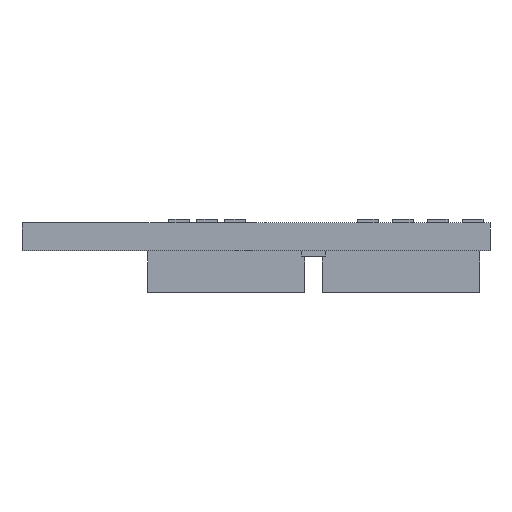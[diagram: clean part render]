
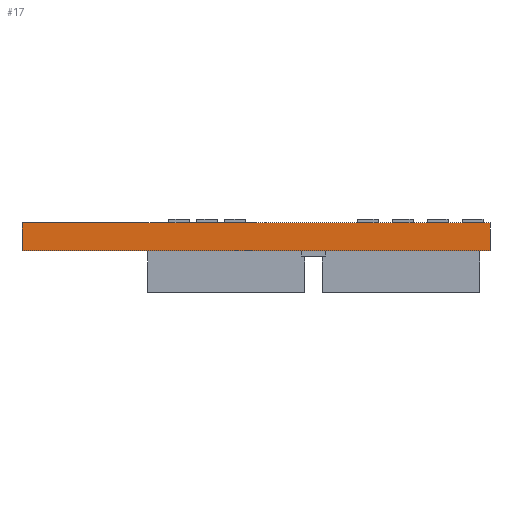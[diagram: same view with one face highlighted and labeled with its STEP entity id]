
A CAD part, left-side view. The second image highlights one B-rep face of the part: STEP entity #17.
In plain terms, the highlighted planar face has unit normal (-1, 0, 0).
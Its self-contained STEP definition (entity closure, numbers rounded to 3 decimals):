
#17 = ADVANCED_FACE('',(#18),#32,.F.);
#18 = FACE_BOUND('',#19,.F.);
#19 = EDGE_LOOP('',(#20,#55,#83,#111));
#20 = ORIENTED_EDGE('',*,*,#21,.F.);
#21 = EDGE_CURVE('',#22,#24,#26,.T.);
#22 = VERTEX_POINT('',#23);
#23 = CARTESIAN_POINT('',(9.2,-6.9,-37.8));
#24 = VERTEX_POINT('',#25);
#25 = CARTESIAN_POINT('',(9.2,-6.9,-37.));
#26 = SURFACE_CURVE('',#27,(#31,#43),.PCURVE_S1.);
#27 = LINE('',#28,#29);
#28 = CARTESIAN_POINT('',(9.2,-6.9,-37.8));
#29 = VECTOR('',#30,1.);
#30 = DIRECTION('',(0.,0.,1.));
#31 = PCURVE('',#32,#37);
#32 = PLANE('',#33);
#33 = AXIS2_PLACEMENT_3D('',#34,#35,#36);
#34 = CARTESIAN_POINT('',(9.2,-6.9,-37.8));
#35 = DIRECTION('',(1.,0.,-0.));
#36 = DIRECTION('',(0.,0.,1.));
#37 = DEFINITIONAL_REPRESENTATION('',(#38),#42);
#38 = LINE('',#39,#40);
#39 = CARTESIAN_POINT('',(0.,0.));
#40 = VECTOR('',#41,1.);
#41 = DIRECTION('',(1.,0.));
#42 = ( GEOMETRIC_REPRESENTATION_CONTEXT(2) 
PARAMETRIC_REPRESENTATION_CONTEXT() REPRESENTATION_CONTEXT('2D SPACE',''
  ) );
#43 = PCURVE('',#44,#49);
#44 = PLANE('',#45);
#45 = AXIS2_PLACEMENT_3D('',#46,#47,#48);
#46 = CARTESIAN_POINT('',(9.2,-6.9,-37.8));
#47 = DIRECTION('',(-0.,1.,0.));
#48 = DIRECTION('',(0.,0.,1.));
#49 = DEFINITIONAL_REPRESENTATION('',(#50),#54);
#50 = LINE('',#51,#52);
#51 = CARTESIAN_POINT('',(0.,0.));
#52 = VECTOR('',#53,1.);
#53 = DIRECTION('',(1.,0.));
#54 = ( GEOMETRIC_REPRESENTATION_CONTEXT(2) 
PARAMETRIC_REPRESENTATION_CONTEXT() REPRESENTATION_CONTEXT('2D SPACE',''
  ) );
#55 = ORIENTED_EDGE('',*,*,#56,.T.);
#56 = EDGE_CURVE('',#22,#57,#59,.T.);
#57 = VERTEX_POINT('',#58);
#58 = CARTESIAN_POINT('',(9.2,6.5,-37.8));
#59 = SURFACE_CURVE('',#60,(#64,#71),.PCURVE_S1.);
#60 = LINE('',#61,#62);
#61 = CARTESIAN_POINT('',(9.2,-6.9,-37.8));
#62 = VECTOR('',#63,1.);
#63 = DIRECTION('',(-0.,1.,0.));
#64 = PCURVE('',#32,#65);
#65 = DEFINITIONAL_REPRESENTATION('',(#66),#70);
#66 = LINE('',#67,#68);
#67 = CARTESIAN_POINT('',(0.,0.));
#68 = VECTOR('',#69,1.);
#69 = DIRECTION('',(0.,-1.));
#70 = ( GEOMETRIC_REPRESENTATION_CONTEXT(2) 
PARAMETRIC_REPRESENTATION_CONTEXT() REPRESENTATION_CONTEXT('2D SPACE',''
  ) );
#71 = PCURVE('',#72,#77);
#72 = PLANE('',#73);
#73 = AXIS2_PLACEMENT_3D('',#74,#75,#76);
#74 = CARTESIAN_POINT('',(9.2,-6.9,-37.8));
#75 = DIRECTION('',(0.,0.,1.));
#76 = DIRECTION('',(1.,0.,-0.));
#77 = DEFINITIONAL_REPRESENTATION('',(#78),#82);
#78 = LINE('',#79,#80);
#79 = CARTESIAN_POINT('',(0.,0.));
#80 = VECTOR('',#81,1.);
#81 = DIRECTION('',(0.,1.));
#82 = ( GEOMETRIC_REPRESENTATION_CONTEXT(2) 
PARAMETRIC_REPRESENTATION_CONTEXT() REPRESENTATION_CONTEXT('2D SPACE',''
  ) );
#83 = ORIENTED_EDGE('',*,*,#84,.T.);
#84 = EDGE_CURVE('',#57,#85,#87,.T.);
#85 = VERTEX_POINT('',#86);
#86 = CARTESIAN_POINT('',(9.2,6.5,-37.));
#87 = SURFACE_CURVE('',#88,(#92,#99),.PCURVE_S1.);
#88 = LINE('',#89,#90);
#89 = CARTESIAN_POINT('',(9.2,6.5,-37.8));
#90 = VECTOR('',#91,1.);
#91 = DIRECTION('',(0.,0.,1.));
#92 = PCURVE('',#32,#93);
#93 = DEFINITIONAL_REPRESENTATION('',(#94),#98);
#94 = LINE('',#95,#96);
#95 = CARTESIAN_POINT('',(0.,-13.4));
#96 = VECTOR('',#97,1.);
#97 = DIRECTION('',(1.,0.));
#98 = ( GEOMETRIC_REPRESENTATION_CONTEXT(2) 
PARAMETRIC_REPRESENTATION_CONTEXT() REPRESENTATION_CONTEXT('2D SPACE',''
  ) );
#99 = PCURVE('',#100,#105);
#100 = PLANE('',#101);
#101 = AXIS2_PLACEMENT_3D('',#102,#103,#104);
#102 = CARTESIAN_POINT('',(9.2,6.5,-37.8));
#103 = DIRECTION('',(-0.,1.,0.));
#104 = DIRECTION('',(0.,0.,1.));
#105 = DEFINITIONAL_REPRESENTATION('',(#106),#110);
#106 = LINE('',#107,#108);
#107 = CARTESIAN_POINT('',(0.,0.));
#108 = VECTOR('',#109,1.);
#109 = DIRECTION('',(1.,0.));
#110 = ( GEOMETRIC_REPRESENTATION_CONTEXT(2) 
PARAMETRIC_REPRESENTATION_CONTEXT() REPRESENTATION_CONTEXT('2D SPACE',''
  ) );
#111 = ORIENTED_EDGE('',*,*,#112,.F.);
#112 = EDGE_CURVE('',#24,#85,#113,.T.);
#113 = SURFACE_CURVE('',#114,(#118,#125),.PCURVE_S1.);
#114 = LINE('',#115,#116);
#115 = CARTESIAN_POINT('',(9.2,-6.9,-37.));
#116 = VECTOR('',#117,1.);
#117 = DIRECTION('',(-0.,1.,0.));
#118 = PCURVE('',#32,#119);
#119 = DEFINITIONAL_REPRESENTATION('',(#120),#124);
#120 = LINE('',#121,#122);
#121 = CARTESIAN_POINT('',(0.8,0.));
#122 = VECTOR('',#123,1.);
#123 = DIRECTION('',(0.,-1.));
#124 = ( GEOMETRIC_REPRESENTATION_CONTEXT(2) 
PARAMETRIC_REPRESENTATION_CONTEXT() REPRESENTATION_CONTEXT('2D SPACE',''
  ) );
#125 = PCURVE('',#126,#131);
#126 = PLANE('',#127);
#127 = AXIS2_PLACEMENT_3D('',#128,#129,#130);
#128 = CARTESIAN_POINT('',(9.2,-6.9,-37.));
#129 = DIRECTION('',(0.,0.,1.));
#130 = DIRECTION('',(1.,0.,-0.));
#131 = DEFINITIONAL_REPRESENTATION('',(#132),#136);
#132 = LINE('',#133,#134);
#133 = CARTESIAN_POINT('',(0.,0.));
#134 = VECTOR('',#135,1.);
#135 = DIRECTION('',(0.,1.));
#136 = ( GEOMETRIC_REPRESENTATION_CONTEXT(2) 
PARAMETRIC_REPRESENTATION_CONTEXT() REPRESENTATION_CONTEXT('2D SPACE',''
  ) );
